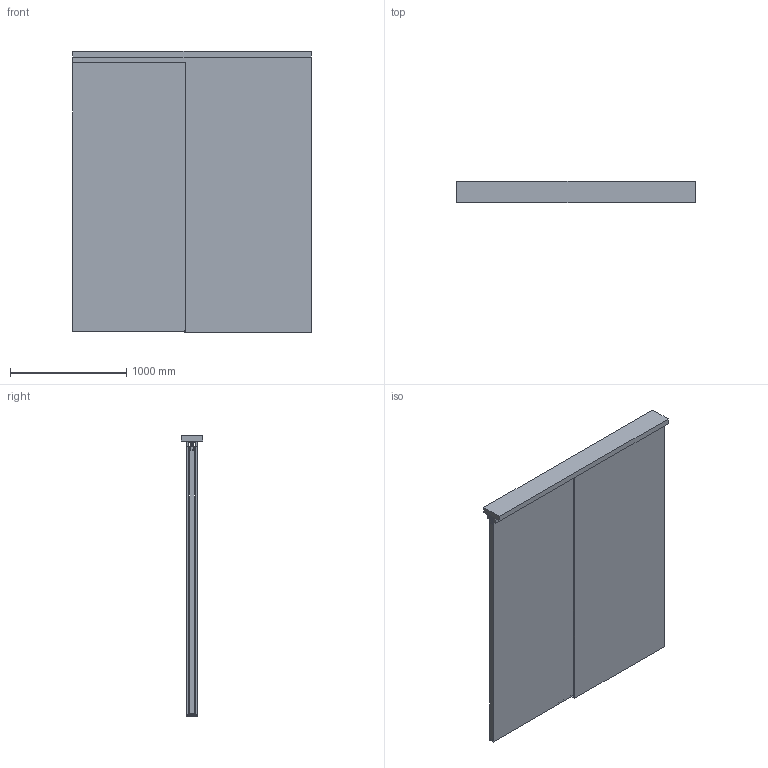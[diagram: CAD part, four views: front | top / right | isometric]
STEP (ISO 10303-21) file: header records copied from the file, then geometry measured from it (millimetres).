
FILE_DESCRIPTION(('STEP AP242'),'1');
FILE_NAME('OPO_65.080.31.stp','2026-01-14T05:29:07',(' '),(' '),'Spatial InterOp 3D',' ',' ');
FILE_SCHEMA(('AP242_MANAGED_MODEL_BASED_3D_ENGINEERING_MIM_LF {1 0 10303 442 1 1 4}'));
Length unit declared in the file: millimetre
Products named in the file (10): Zeichnung2; OPO_65.082.78; OPO_65.080.31_Laufwerk; OPO_65.080.31_Laufwerk_mit_Daempfer; OPO_65.080.31_Aktivator; OPO_65.080.31_Aufhaengung_minimal_Holz; OPO_65.082.61; OPO_65.080.31_Aktivator_lang; OPO_65.080.31_Bodenfuehrung_Pocket_Holz; AutoCreatedBlock_203
Assembly tree (11 placements, depth 2):
  Zeichnung2
    OPO_65.082.78  x2
    OPO_65.080.31_Laufwerk
    OPO_65.080.31_Laufwerk_mit_Daempfer
    OPO_65.080.31_Aktivator
    OPO_65.080.31_Aufhaengung_minimal_Holz  x2
    OPO_65.082.61
    OPO_65.080.31_Aktivator_lang
    OPO_65.080.31_Bodenfuehrung_Pocket_Holz
    AutoCreatedBlock_203
Bounding box: 2050.5 x 188 x 2418 mm (x, y, z)
Volume: 212294858.2 mm3; surface area: 17900783.2 mm2
Topology: 83 solids, 83 shells, 1640 faces, 4206 edges, 2781 vertices
Faces by surface type: plane 1000, cylinder 612, cone 28
Entity records: 54395 total; most frequent: CARTESIAN_POINT 7609, DIRECTION 7523, ORIENTED_EDGE 7178, EDGE_CURVE 3589, AXIS2_PLACEMENT_3D 2527, LINE 2469, VECTOR 2469, VERTEX_POINT 2375
